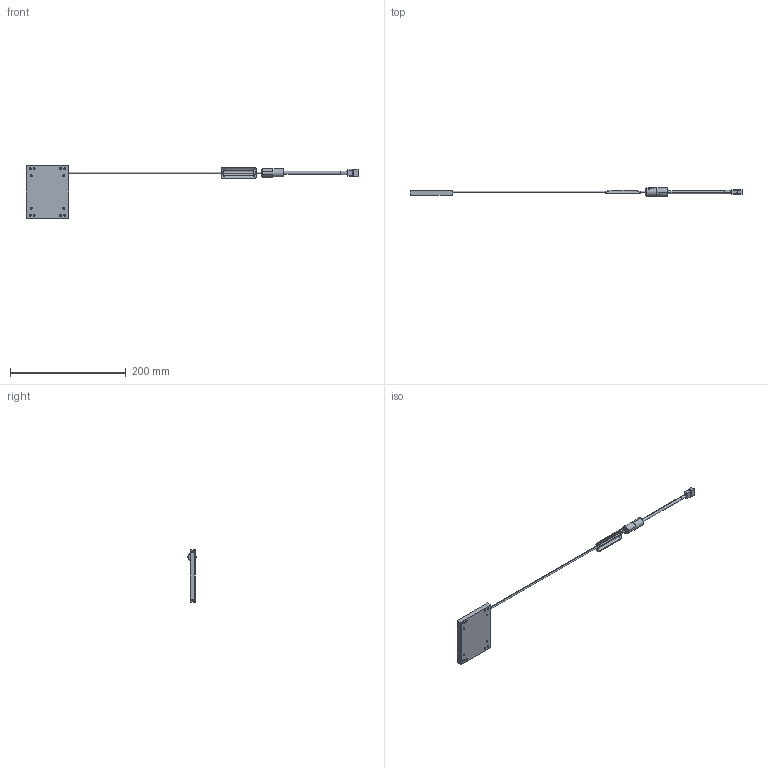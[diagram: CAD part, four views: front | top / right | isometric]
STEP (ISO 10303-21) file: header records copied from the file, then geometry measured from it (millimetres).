
FILE_DESCRIPTION (( 'STEP AP203' ), '1' );
FILE_NAME ('MEBL-C#50_A09326A0100101A-003.STEP', '2013-12-24T04:59:00', ( 'SCHOTT' ), ( 'SCHOTT' ), 'SwSTEP 2.0', 'SolidWorks 2011', '' );
FILE_SCHEMA (( 'CONFIG_CONTROL_DESIGN' ));
Length unit declared in the file: millimetre
Products named in the file (1): MEBL-C#50_A09326A0100101A-003
Bounding box: 574 x 14.1 x 90 mm (x, y, z)
Volume: 65505.2 mm3; surface area: 27551.1 mm2
Topology: 2 solids, 30 shells, 776 faces, 2244 edges, 1598 vertices
Faces by surface type: plane 434, cylinder 243, cone 84, bspline 8, sphere 4, torus 3
Entity records: 32068 total; most frequent: CARTESIAN_POINT 11521, ORIENTED_EDGE 4480, DIRECTION 3948, EDGE_CURVE 2240, VERTEX_POINT 1598, AXIS2_PLACEMENT_3D 1334, VECTOR 1280, LINE 1280
